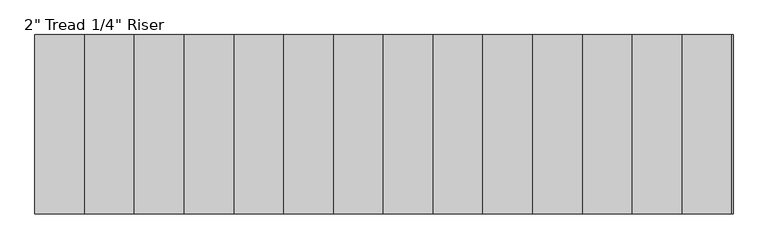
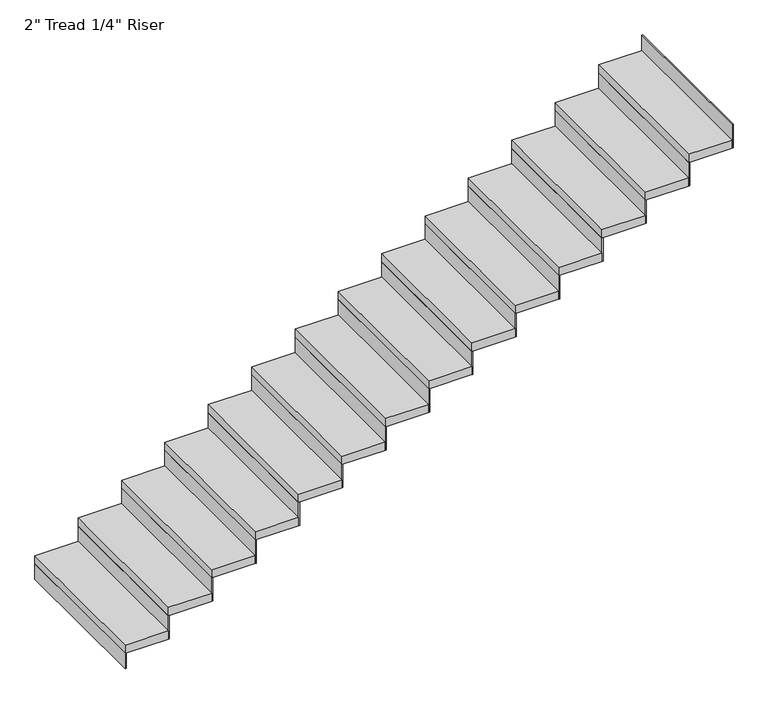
"""IFC4 building model written with IfcOpenShell, lengths in millimetres: stair flight geometry."""

from ifc_helpers import new_model, si_unit, frame, origin, origin_with_axes, place, context, project, spatial, polyline, outline, extrude, source, transform, mapped, element, save


def stair_flight_f16808b1(model_context):
    return source(origin(), model_context, "Body", "SweptSolid", [
        extrude(outline(polyline([(84202.5548368, -18868.6990002), (84196.2048368, -18868.6990002), (84196.2048368, -17954.2990002), (84202.5548368, -17954.2990002), (84202.5548368, -18868.6990002)])), origin_with_axes(), (0.0, 0.0, 1.0), 94.3428571),
        extrude(outline(polyline([(84450.2048368, -17954.2990002), (84450.2048368, -18868.6990002), (84196.2048368, -18868.6990002), (84196.2048368, -17954.2990002), (84450.2048368, -17954.2990002)])), frame((0.0, 0.0, 94.3428571), z_axis=(0.0, 0.0, 1.0), x_axis=(1.0, 0.0, 0.0)), (0.0, 0.0, 1.0), 50.8),
        extrude(outline(polyline([(84456.5548368, -18868.6990002), (84450.2048368, -18868.6990002), (84450.2048368, -17954.2990002), (84456.5548368, -17954.2990002), (84456.5548368, -18868.6990002)])), frame((0.0, 0.0, 94.3428571), z_axis=(0.0, 0.0, 1.0), x_axis=(1.0, 0.0, 0.0)), (0.0, 0.0, 1.0), 145.1428571),
        extrude(outline(polyline([(84704.2048368, -17954.2990002), (84704.2048368, -18868.6990002), (84450.2048368, -18868.6990002), (84450.2048368, -17954.2990002), (84704.2048368, -17954.2990002)])), frame((0.0, 0.0, 239.4857143), z_axis=(0.0, 0.0, 1.0), x_axis=(1.0, 0.0, 0.0)), (0.0, 0.0, 1.0), 50.8),
        extrude(outline(polyline([(84710.5548368, -18868.6990002), (84704.2048368, -18868.6990002), (84704.2048368, -17954.2990002), (84710.5548368, -17954.2990002), (84710.5548368, -18868.6990002)])), frame((0.0, 0.0, 239.4857143), z_axis=(0.0, 0.0, 1.0), x_axis=(1.0, 0.0, 0.0)), (0.0, 0.0, 1.0), 145.1428571),
        extrude(outline(polyline([(84958.2048368, -17954.2990002), (84958.2048368, -18868.6990002), (84704.2048368, -18868.6990002), (84704.2048368, -17954.2990002), (84958.2048368, -17954.2990002)])), frame((0.0, 0.0, 384.6285714), z_axis=(0.0, 0.0, 1.0), x_axis=(1.0, 0.0, 0.0)), (0.0, 0.0, 1.0), 50.8),
        extrude(outline(polyline([(84964.5548368, -18868.6990002), (84958.2048368, -18868.6990002), (84958.2048368, -17954.2990002), (84964.5548368, -17954.2990002), (84964.5548368, -18868.6990002)])), frame((0.0, 0.0, 384.6285714), z_axis=(0.0, 0.0, 1.0), x_axis=(1.0, 0.0, 0.0)), (0.0, 0.0, 1.0), 145.1428571),
        extrude(outline(polyline([(85212.2048368, -17954.2990002), (85212.2048368, -18868.6990002), (84958.2048368, -18868.6990002), (84958.2048368, -17954.2990002), (85212.2048368, -17954.2990002)])), frame((0.0, 0.0, 529.7714286), z_axis=(0.0, 0.0, 1.0), x_axis=(1.0, 0.0, 0.0)), (0.0, 0.0, 1.0), 50.8),
        extrude(outline(polyline([(85218.5548368, -18868.6990002), (85212.2048368, -18868.6990002), (85212.2048368, -17954.2990002), (85218.5548368, -17954.2990002), (85218.5548368, -18868.6990002)])), frame((0.0, 0.0, 529.7714286), z_axis=(0.0, 0.0, 1.0), x_axis=(1.0, 0.0, 0.0)), (0.0, 0.0, 1.0), 145.1428571),
        extrude(outline(polyline([(85466.2048368, -17954.2990002), (85466.2048368, -18868.6990002), (85212.2048368, -18868.6990002), (85212.2048368, -17954.2990002), (85466.2048368, -17954.2990002)])), frame((0.0, 0.0, 674.9142857), z_axis=(0.0, 0.0, 1.0), x_axis=(1.0, 0.0, 0.0)), (0.0, 0.0, 1.0), 50.8),
        extrude(outline(polyline([(85472.5548368, -18868.6990002), (85466.2048368, -18868.6990002), (85466.2048368, -17954.2990002), (85472.5548368, -17954.2990002), (85472.5548368, -18868.6990002)])), frame((0.0, 0.0, 674.9142857), z_axis=(0.0, 0.0, 1.0), x_axis=(1.0, 0.0, 0.0)), (0.0, 0.0, 1.0), 145.1428571),
        extrude(outline(polyline([(85720.2048368, -17954.2990002), (85720.2048368, -18868.6990002), (85466.2048368, -18868.6990002), (85466.2048368, -17954.2990002), (85720.2048368, -17954.2990002)])), frame((0.0, 0.0, 820.0571429), z_axis=(0.0, 0.0, 1.0), x_axis=(1.0, 0.0, 0.0)), (0.0, 0.0, 1.0), 50.8),
        extrude(outline(polyline([(85726.5548368, -18868.6990002), (85720.2048368, -18868.6990002), (85720.2048368, -17954.2990002), (85726.5548368, -17954.2990002), (85726.5548368, -18868.6990002)])), frame((0.0, 0.0, 820.0571429), z_axis=(0.0, 0.0, 1.0), x_axis=(1.0, 0.0, 0.0)), (0.0, 0.0, 1.0), 145.1428571),
        extrude(outline(polyline([(85974.2048368, -17954.2990002), (85974.2048368, -18868.6990002), (85720.2048368, -18868.6990002), (85720.2048368, -17954.2990002), (85974.2048368, -17954.2990002)])), frame((0.0, 0.0, 965.2), z_axis=(0.0, 0.0, 1.0), x_axis=(1.0, 0.0, 0.0)), (0.0, 0.0, 1.0), 50.8),
        extrude(outline(polyline([(85980.5548368, -18868.6990002), (85974.2048368, -18868.6990002), (85974.2048368, -17954.2990002), (85980.5548368, -17954.2990002), (85980.5548368, -18868.6990002)])), frame((0.0, 0.0, 965.2), z_axis=(0.0, 0.0, 1.0), x_axis=(1.0, 0.0, 0.0)), (0.0, 0.0, 1.0), 145.1428571),
        extrude(outline(polyline([(86228.2048368, -17954.2990002), (86228.2048368, -18868.6990002), (85974.2048368, -18868.6990002), (85974.2048368, -17954.2990002), (86228.2048368, -17954.2990002)])), frame((0.0, 0.0, 1110.3428571), z_axis=(0.0, 0.0, 1.0), x_axis=(1.0, 0.0, 0.0)), (0.0, 0.0, 1.0), 50.8),
        extrude(outline(polyline([(86234.5548368, -18868.6990002), (86228.2048368, -18868.6990002), (86228.2048368, -17954.2990002), (86234.5548368, -17954.2990002), (86234.5548368, -18868.6990002)])), frame((0.0, 0.0, 1110.3428571), z_axis=(0.0, 0.0, 1.0), x_axis=(1.0, 0.0, 0.0)), (0.0, 0.0, 1.0), 145.1428571),
        extrude(outline(polyline([(86482.2048368, -17954.2990002), (86482.2048368, -18868.6990002), (86228.2048368, -18868.6990002), (86228.2048368, -17954.2990002), (86482.2048368, -17954.2990002)])), frame((0.0, 0.0, 1255.4857143), z_axis=(0.0, 0.0, 1.0), x_axis=(1.0, 0.0, 0.0)), (0.0, 0.0, 1.0), 50.8),
        extrude(outline(polyline([(86488.5548368, -18868.6990002), (86482.2048368, -18868.6990002), (86482.2048368, -17954.2990002), (86488.5548368, -17954.2990002), (86488.5548368, -18868.6990002)])), frame((0.0, 0.0, 1255.4857143), z_axis=(0.0, 0.0, 1.0), x_axis=(1.0, 0.0, 0.0)), (0.0, 0.0, 1.0), 145.1428571),
        extrude(outline(polyline([(86736.2048368, -17954.2990002), (86736.2048368, -18868.6990002), (86482.2048368, -18868.6990002), (86482.2048368, -17954.2990002), (86736.2048368, -17954.2990002)])), frame((0.0, 0.0, 1400.6285714), z_axis=(0.0, 0.0, 1.0), x_axis=(1.0, 0.0, 0.0)), (0.0, 0.0, 1.0), 50.8),
        extrude(outline(polyline([(86742.5548368, -18868.6990002), (86736.2048368, -18868.6990002), (86736.2048368, -17954.2990002), (86742.5548368, -17954.2990002), (86742.5548368, -18868.6990002)])), frame((0.0, 0.0, 1400.6285714), z_axis=(0.0, 0.0, 1.0), x_axis=(1.0, 0.0, 0.0)), (0.0, 0.0, 1.0), 145.1428571),
        extrude(outline(polyline([(86990.2048368, -17954.2990002), (86990.2048368, -18868.6990002), (86736.2048368, -18868.6990002), (86736.2048368, -17954.2990002), (86990.2048368, -17954.2990002)])), frame((0.0, 0.0, 1545.7714286), z_axis=(0.0, 0.0, 1.0), x_axis=(1.0, 0.0, 0.0)), (0.0, 0.0, 1.0), 50.8),
        extrude(outline(polyline([(86996.5548368, -18868.6990002), (86990.2048368, -18868.6990002), (86990.2048368, -17954.2990002), (86996.5548368, -17954.2990002), (86996.5548368, -18868.6990002)])), frame((0.0, 0.0, 1545.7714286), z_axis=(0.0, 0.0, 1.0), x_axis=(1.0, 0.0, 0.0)), (0.0, 0.0, 1.0), 145.1428571),
        extrude(outline(polyline([(87244.2048368, -17954.2990002), (87244.2048368, -18868.6990002), (86990.2048368, -18868.6990002), (86990.2048368, -17954.2990002), (87244.2048368, -17954.2990002)])), frame((0.0, 0.0, 1690.9142857), z_axis=(0.0, 0.0, 1.0), x_axis=(1.0, 0.0, 0.0)), (0.0, 0.0, 1.0), 50.8),
        extrude(outline(polyline([(87250.5548368, -18868.6990002), (87244.2048368, -18868.6990002), (87244.2048368, -17954.2990002), (87250.5548368, -17954.2990002), (87250.5548368, -18868.6990002)])), frame((0.0, 0.0, 1690.9142857), z_axis=(0.0, 0.0, 1.0), x_axis=(1.0, 0.0, 0.0)), (0.0, 0.0, 1.0), 145.1428571),
        extrude(outline(polyline([(87498.2048368, -17954.2990002), (87498.2048368, -18868.6990002), (87244.2048368, -18868.6990002), (87244.2048368, -17954.2990002), (87498.2048368, -17954.2990002)])), frame((0.0, 0.0, 1836.0571429), z_axis=(0.0, 0.0, 1.0), x_axis=(1.0, 0.0, 0.0)), (0.0, 0.0, 1.0), 50.8),
        extrude(outline(polyline([(87504.5548368, -18868.6990002), (87498.2048368, -18868.6990002), (87498.2048368, -17954.2990002), (87504.5548368, -17954.2990002), (87504.5548368, -18868.6990002)])), frame((0.0, 0.0, 1836.0571429), z_axis=(0.0, 0.0, 1.0), x_axis=(1.0, 0.0, 0.0)), (0.0, 0.0, 1.0), 145.1428571),
        extrude(outline(polyline([(87758.5548368, -18868.6990002), (87752.2048368, -18868.6990002), (87752.2048368, -17954.2990002), (87758.5548368, -17954.2990002), (87758.5548368, -18868.6990002)])), frame((0.0, 0.0, 1981.2), z_axis=(0.0, 0.0, 1.0), x_axis=(1.0, 0.0, 0.0)), (0.0, 0.0, 1.0), 145.1428571),
        extrude(outline(polyline([(87752.2048368, -17954.2990002), (87752.2048368, -18868.6990002), (87498.2048368, -18868.6990002), (87498.2048368, -17954.2990002), (87752.2048368, -17954.2990002)])), frame((0.0, 0.0, 1981.2), z_axis=(0.0, 0.0, 1.0), x_axis=(1.0, 0.0, 0.0)), (0.0, 0.0, 1.0), 50.8),
    ])


if __name__ == "__main__":
    model = new_model("IFC4")
    model_context = context("Model", 3, world=origin())
    ifc_project = project(units=[si_unit("LENGTHUNIT", "METRE", prefix="MILLI")], contexts=[model_context])
    site = spatial("IfcSite", under=ifc_project)
    building = spatial("IfcBuilding", under=site)
    placement = place(None, origin())
    stair_flight_shape = stair_flight_f16808b1(model_context)
    element("IfcStairFlight", 1, ObjectType="2\" Tread 1/4\" Riser", at=placement, inside=building, context=model_context, shape_type="MappedRepresentation", body=[
        mapped(stair_flight_shape, transform((0.0, 0.0, 0.0), x_axis=(1.0, 0.0, 0.0), y_axis=(0.0, 1.0, 0.0), z_axis=(0.0, 0.0, 1.0))),
    ])
    save(model, "model.ifc")
